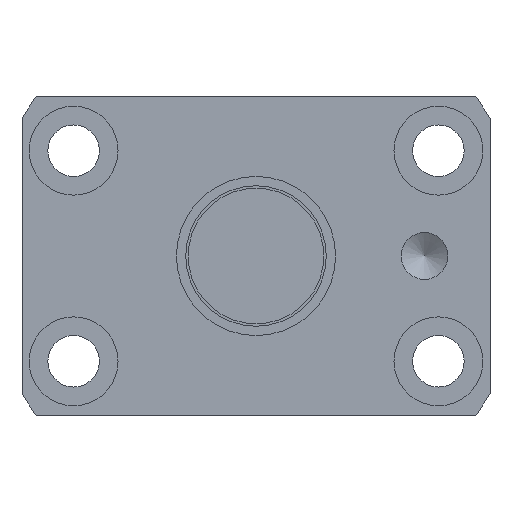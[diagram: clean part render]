
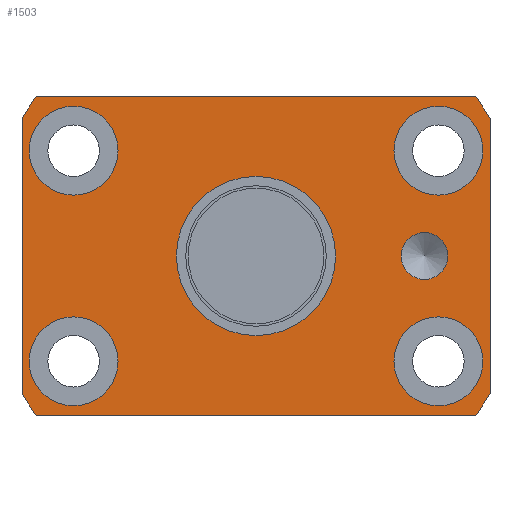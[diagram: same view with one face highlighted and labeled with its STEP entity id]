
A CAD part, left-side view. The second image highlights one B-rep face of the part: STEP entity #1503.
In plain terms, the highlighted planar face has unit normal (-1, 0, 0).
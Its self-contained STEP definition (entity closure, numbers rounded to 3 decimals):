
#8 = VERTEX_POINT ( 'NONE', #1339 ) ;
#25 = CIRCLE ( 'NONE', #1259, 29. ) ;
#26 = CARTESIAN_POINT ( 'NONE',  ( 0., -14.736, -11.25 ) ) ;
#77 = EDGE_CURVE ( 'NONE', #2098, #2411, #25, .T. ) ;
#89 = AXIS2_PLACEMENT_3D ( 'NONE', #1720, #2234, #2787 ) ;
#125 = DIRECTION ( 'NONE',  ( 0., 0., 1. ) ) ;
#155 = DIRECTION ( 'NONE',  ( 0., 1., 0. ) ) ;
#166 = ORIENTED_EDGE ( 'NONE', *, *, #2926, .T. ) ;
#171 = EDGE_CURVE ( 'NONE', #246, #246, #3086, .T. ) ;
#174 = ORIENTED_EDGE ( 'NONE', *, *, #1823, .F. ) ;
#184 = CARTESIAN_POINT ( 'NONE',  ( 0., 25., 14.697 ) ) ;
#244 = EDGE_LOOP ( 'NONE', ( #1541 ) ) ;
#245 = LINE ( 'NONE', #2825, #2443 ) ;
#246 = VERTEX_POINT ( 'NONE', #2730 ) ;
#291 = CARTESIAN_POINT ( 'NONE',  ( 0., -23.495, 17. ) ) ;
#314 = VERTEX_POINT ( 'NONE', #26 ) ;
#352 = DIRECTION ( 'NONE',  ( 0., 1., 0. ) ) ;
#358 = AXIS2_PLACEMENT_3D ( 'NONE', #2489, #2197, #1394 ) ;
#364 = AXIS2_PLACEMENT_3D ( 'NONE', #1971, #1950, #125 ) ;
#411 = FACE_OUTER_BOUND ( 'NONE', #857, .T. ) ;
#429 = FACE_BOUND ( 'NONE', #1598, .T. ) ;
#487 = AXIS2_PLACEMENT_3D ( 'NONE', #3202, #665, #1663 ) ;
#542 = ORIENTED_EDGE ( 'NONE', *, *, #1901, .F. ) ;
#554 = ORIENTED_EDGE ( 'NONE', *, *, #171, .F. ) ;
#588 = EDGE_CURVE ( 'NONE', #2209, #2209, #2377, .T. ) ;
#665 = DIRECTION ( 'NONE',  ( 1., 0., 0. ) ) ;
#672 = FACE_BOUND ( 'NONE', #244, .T. ) ;
#675 = CARTESIAN_POINT ( 'NONE',  ( 0., 19.486, -11.25 ) ) ;
#687 = EDGE_CURVE ( 'NONE', #1716, #1716, #2107, .T. ) ;
#694 = CIRCLE ( 'NONE', #894, 4.75 ) ;
#702 = CARTESIAN_POINT ( 'NONE',  ( 0., 8.5, 0. ) ) ;
#834 = EDGE_LOOP ( 'NONE', ( #166 ) ) ;
#857 = EDGE_LOOP ( 'NONE', ( #2462, #174, #542, #2505, #1555, #1301, #3193, #3160 ) ) ;
#894 = AXIS2_PLACEMENT_3D ( 'NONE', #1082, #3131, #2879 ) ;
#934 = AXIS2_PLACEMENT_3D ( 'NONE', #2372, #1078, #2598 ) ;
#962 = CARTESIAN_POINT ( 'NONE',  ( 0., -25., 14.697 ) ) ;
#979 = EDGE_CURVE ( 'NONE', #2727, #2098, #2324, .T. ) ;
#1078 = DIRECTION ( 'NONE',  ( 1., 0., 0. ) ) ;
#1082 = CARTESIAN_POINT ( 'NONE',  ( 0., -19.486, 11.25 ) ) ;
#1100 = AXIS2_PLACEMENT_3D ( 'NONE', #2957, #1668, #2697 ) ;
#1117 = EDGE_LOOP ( 'NONE', ( #1742 ) ) ;
#1154 = CIRCLE ( 'NONE', #3144, 4.75 ) ;
#1197 = CARTESIAN_POINT ( 'NONE',  ( 0., 23.495, -17. ) ) ;
#1238 = DIRECTION ( 'NONE',  ( 0., 1., 0. ) ) ;
#1259 = AXIS2_PLACEMENT_3D ( 'NONE', #2363, #2637, #352 ) ;
#1285 = VERTEX_POINT ( 'NONE', #2624 ) ;
#1289 = VERTEX_POINT ( 'NONE', #3130 ) ;
#1301 = ORIENTED_EDGE ( 'NONE', *, *, #3129, .F. ) ;
#1339 = CARTESIAN_POINT ( 'NONE',  ( 0., -14.736, 11.25 ) ) ;
#1372 = EDGE_CURVE ( 'NONE', #314, #314, #1154, .T. ) ;
#1394 = DIRECTION ( 'NONE',  ( 0., 0., 1. ) ) ;
#1428 = CARTESIAN_POINT ( 'NONE',  ( 0., -25., -14.697 ) ) ;
#1446 = CARTESIAN_POINT ( 'NONE',  ( 0., 23.495, 17. ) ) ;
#1447 = CARTESIAN_POINT ( 'NONE',  ( 0., 25., -17. ) ) ;
#1476 = AXIS2_PLACEMENT_3D ( 'NONE', #1779, #2804, #2298 ) ;
#1503 = ADVANCED_FACE ( 'NONE', ( #429, #672, #2944, #2475, #1657, #411, #2959 ), #2699, .T. ) ;
#1520 = VERTEX_POINT ( 'NONE', #184 ) ;
#1541 = ORIENTED_EDGE ( 'NONE', *, *, #687, .T. ) ;
#1555 = ORIENTED_EDGE ( 'NONE', *, *, #979, .F. ) ;
#1583 = LINE ( 'NONE', #2921, #1694 ) ;
#1598 = EDGE_LOOP ( 'NONE', ( #554 ) ) ;
#1633 = DIRECTION ( 'NONE',  ( 1., 0., 0. ) ) ;
#1644 = VECTOR ( 'NONE', #2985, 1000. ) ;
#1657 = FACE_BOUND ( 'NONE', #1934, .T. ) ;
#1663 = DIRECTION ( 'NONE',  ( 0., 1., 0. ) ) ;
#1665 = EDGE_CURVE ( 'NONE', #3231, #1975, #245, .T. ) ;
#1668 = DIRECTION ( 'NONE',  ( 1., 0., 0. ) ) ;
#1694 = VECTOR ( 'NONE', #2610, 1000. ) ;
#1716 = VERTEX_POINT ( 'NONE', #2228 ) ;
#1720 = CARTESIAN_POINT ( 'NONE',  ( 0., 19.486, 11.25 ) ) ;
#1742 = ORIENTED_EDGE ( 'NONE', *, *, #2369, .T. ) ;
#1779 = CARTESIAN_POINT ( 'NONE',  ( 0., 0., 0. ) ) ;
#1823 = EDGE_CURVE ( 'NONE', #2715, #3231, #3044, .T. ) ;
#1825 = DIRECTION ( 'NONE',  ( 0., -1., 0. ) ) ;
#1901 = EDGE_CURVE ( 'NONE', #2411, #2715, #1583, .T. ) ;
#1934 = EDGE_LOOP ( 'NONE', ( #2562 ) ) ;
#1948 = LINE ( 'NONE', #1447, #1644 ) ;
#1950 = DIRECTION ( 'NONE',  ( -1., 0., 0. ) ) ;
#1971 = CARTESIAN_POINT ( 'NONE',  ( 0., 12.75, 0. ) ) ;
#1975 = VERTEX_POINT ( 'NONE', #1197 ) ;
#2098 = VERTEX_POINT ( 'NONE', #291 ) ;
#2107 = CIRCLE ( 'NONE', #2381, 4.75 ) ;
#2197 = DIRECTION ( 'NONE',  ( -1., 0., 0. ) ) ;
#2209 = VERTEX_POINT ( 'NONE', #702 ) ;
#2227 = CIRCLE ( 'NONE', #1100, 29. ) ;
#2228 = CARTESIAN_POINT ( 'NONE',  ( 0., 24.236, -11.25 ) ) ;
#2234 = DIRECTION ( 'NONE',  ( 1., 0., 0. ) ) ;
#2264 = EDGE_CURVE ( 'NONE', #1285, #1520, #1948, .T. ) ;
#2298 = DIRECTION ( 'NONE',  ( 0., 1., 0. ) ) ;
#2321 = VECTOR ( 'NONE', #1825, 1000. ) ;
#2324 = LINE ( 'NONE', #3116, #2321 ) ;
#2331 = CIRCLE ( 'NONE', #89, 4.75 ) ;
#2339 = CIRCLE ( 'NONE', #487, 29. ) ;
#2340 = EDGE_CURVE ( 'NONE', #1975, #1285, #2227, .T. ) ;
#2363 = CARTESIAN_POINT ( 'NONE',  ( 0., 0., 0. ) ) ;
#2369 = EDGE_CURVE ( 'NONE', #1289, #1289, #2331, .T. ) ;
#2372 = CARTESIAN_POINT ( 'NONE',  ( 0., 0., 0. ) ) ;
#2377 = CIRCLE ( 'NONE', #934, 8.5 ) ;
#2381 = AXIS2_PLACEMENT_3D ( 'NONE', #675, #2428, #155 ) ;
#2384 = DIRECTION ( 'NONE',  ( 0., 1., 0. ) ) ;
#2394 = EDGE_LOOP ( 'NONE', ( #3211 ) ) ;
#2411 = VERTEX_POINT ( 'NONE', #962 ) ;
#2428 = DIRECTION ( 'NONE',  ( 1., 0., 0. ) ) ;
#2443 = VECTOR ( 'NONE', #1238, 1000. ) ;
#2462 = ORIENTED_EDGE ( 'NONE', *, *, #1665, .F. ) ;
#2475 = FACE_BOUND ( 'NONE', #1117, .T. ) ;
#2489 = CARTESIAN_POINT ( 'NONE',  ( 0., -18., 0. ) ) ;
#2505 = ORIENTED_EDGE ( 'NONE', *, *, #77, .F. ) ;
#2562 = ORIENTED_EDGE ( 'NONE', *, *, #1372, .T. ) ;
#2598 = DIRECTION ( 'NONE',  ( 0., 1., 0. ) ) ;
#2610 = DIRECTION ( 'NONE',  ( 0., 0., -1. ) ) ;
#2624 = CARTESIAN_POINT ( 'NONE',  ( 0., 25., -14.697 ) ) ;
#2637 = DIRECTION ( 'NONE',  ( 1., 0., 0. ) ) ;
#2639 = CARTESIAN_POINT ( 'NONE',  ( 0., -19.486, -11.25 ) ) ;
#2697 = DIRECTION ( 'NONE',  ( 0., 1., 0. ) ) ;
#2699 = PLANE ( 'NONE',  #364 ) ;
#2715 = VERTEX_POINT ( 'NONE', #1428 ) ;
#2727 = VERTEX_POINT ( 'NONE', #1446 ) ;
#2730 = CARTESIAN_POINT ( 'NONE',  ( 0., -18., 2.5 ) ) ;
#2787 = DIRECTION ( 'NONE',  ( 0., 1., 0. ) ) ;
#2804 = DIRECTION ( 'NONE',  ( 1., 0., 0. ) ) ;
#2825 = CARTESIAN_POINT ( 'NONE',  ( 0., -25., -17. ) ) ;
#2879 = DIRECTION ( 'NONE',  ( 0., 1., 0. ) ) ;
#2917 = CARTESIAN_POINT ( 'NONE',  ( 0., -23.495, -17. ) ) ;
#2921 = CARTESIAN_POINT ( 'NONE',  ( 0., -25., 17. ) ) ;
#2926 = EDGE_CURVE ( 'NONE', #8, #8, #694, .T. ) ;
#2944 = FACE_BOUND ( 'NONE', #834, .T. ) ;
#2957 = CARTESIAN_POINT ( 'NONE',  ( 0., 0., 0. ) ) ;
#2959 = FACE_BOUND ( 'NONE', #2394, .T. ) ;
#2985 = DIRECTION ( 'NONE',  ( 0., 0., 1. ) ) ;
#3044 = CIRCLE ( 'NONE', #1476, 29. ) ;
#3086 = CIRCLE ( 'NONE', #358, 2.5 ) ;
#3116 = CARTESIAN_POINT ( 'NONE',  ( 0., 25., 17. ) ) ;
#3129 = EDGE_CURVE ( 'NONE', #1520, #2727, #2339, .T. ) ;
#3130 = CARTESIAN_POINT ( 'NONE',  ( 0., 24.236, 11.25 ) ) ;
#3131 = DIRECTION ( 'NONE',  ( 1., 0., 0. ) ) ;
#3144 = AXIS2_PLACEMENT_3D ( 'NONE', #2639, #1633, #2384 ) ;
#3160 = ORIENTED_EDGE ( 'NONE', *, *, #2340, .F. ) ;
#3193 = ORIENTED_EDGE ( 'NONE', *, *, #2264, .F. ) ;
#3202 = CARTESIAN_POINT ( 'NONE',  ( 0., 0., 0. ) ) ;
#3211 = ORIENTED_EDGE ( 'NONE', *, *, #588, .T. ) ;
#3231 = VERTEX_POINT ( 'NONE', #2917 ) ;
